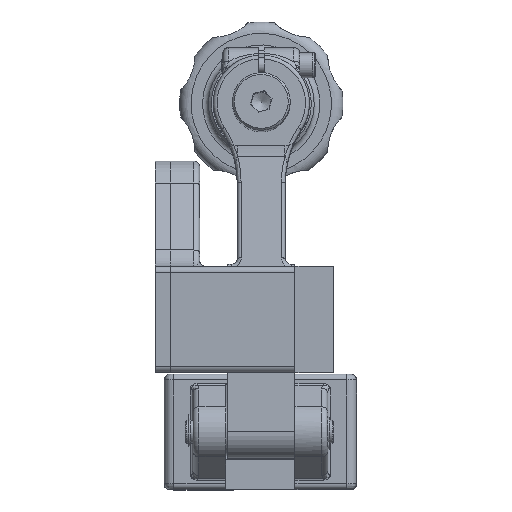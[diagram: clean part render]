
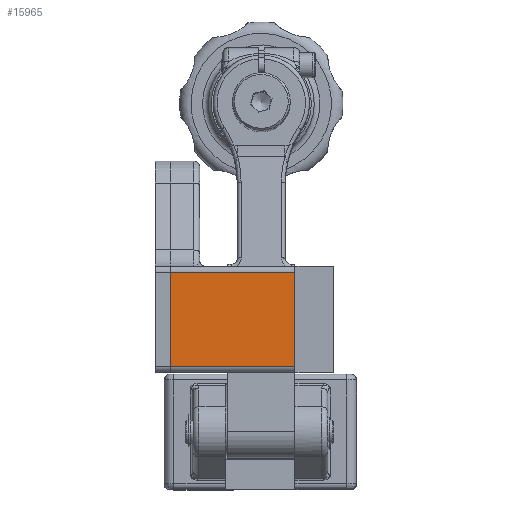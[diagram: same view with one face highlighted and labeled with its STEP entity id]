
A CAD part, top view. The second image highlights one B-rep face of the part: STEP entity #15965.
In plain terms, the highlighted planar face has unit normal (0, 0, 1).
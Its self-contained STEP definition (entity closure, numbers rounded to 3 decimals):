
#994=PLANE('',#17372);
#1611=FACE_OUTER_BOUND('',#2542,.T.);
#2542=EDGE_LOOP('',(#12542,#12543,#12544,#12545));
#3679=LINE('',#26449,#4833);
#3680=LINE('',#26451,#4834);
#3681=LINE('',#26453,#4835);
#3682=LINE('',#26454,#4836);
#4833=VECTOR('',#20800,10.);
#4834=VECTOR('',#20801,10.);
#4835=VECTOR('',#20802,10.);
#4836=VECTOR('',#20803,10.);
#7119=VERTEX_POINT('',#26447);
#7120=VERTEX_POINT('',#26448);
#7121=VERTEX_POINT('',#26450);
#7122=VERTEX_POINT('',#26452);
#9050=EDGE_CURVE('',#7119,#7120,#3679,.T.);
#9051=EDGE_CURVE('',#7121,#7119,#3680,.T.);
#9052=EDGE_CURVE('',#7122,#7121,#3681,.T.);
#9053=EDGE_CURVE('',#7120,#7122,#3682,.T.);
#12542=ORIENTED_EDGE('',*,*,#9050,.F.);
#12543=ORIENTED_EDGE('',*,*,#9051,.F.);
#12544=ORIENTED_EDGE('',*,*,#9052,.F.);
#12545=ORIENTED_EDGE('',*,*,#9053,.F.);
#15965=ADVANCED_FACE('',(#1611),#994,.T.);
#17372=AXIS2_PLACEMENT_3D('',#26446,#20798,#20799);
#20798=DIRECTION('center_axis',(0.,0.,1.));
#20799=DIRECTION('ref_axis',(1.,0.,0.));
#20800=DIRECTION('',(-1.,0.,0.));
#20801=DIRECTION('',(0.,-1.,0.));
#20802=DIRECTION('',(1.,0.,0.));
#20803=DIRECTION('',(0.,1.,0.));
#26446=CARTESIAN_POINT('Origin',(24.449,47.199,90.));
#26447=CARTESIAN_POINT('',(64.5,3.,90.));
#26448=CARTESIAN_POINT('',(0.,3.,90.));
#26449=CARTESIAN_POINT('',(44.475,3.,90.));
#26450=CARTESIAN_POINT('',(64.5,52.,90.));
#26451=CARTESIAN_POINT('',(64.5,0.,90.));
#26452=CARTESIAN_POINT('',(0.,52.,90.));
#26453=CARTESIAN_POINT('',(19.725,52.,90.));
#26454=CARTESIAN_POINT('',(0.,110.,90.));
